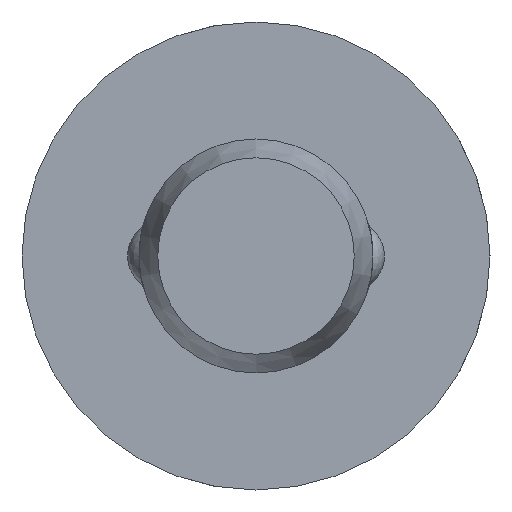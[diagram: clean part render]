
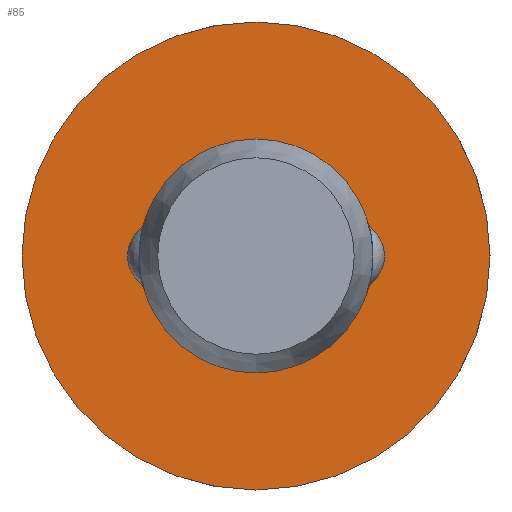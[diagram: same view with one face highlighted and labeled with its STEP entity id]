
A CAD part, left-side view. The second image highlights one B-rep face of the part: STEP entity #85.
In plain terms, the highlighted planar face has unit normal (-1, 0, 0).
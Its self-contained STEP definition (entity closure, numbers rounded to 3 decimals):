
#85 = ADVANCED_FACE( '', ( #131, #132 ), #133, .F. );
#131 = FACE_OUTER_BOUND( '', #204, .T. );
#132 = FACE_BOUND( '', #205, .T. );
#133 = PLANE( '', #206 );
#204 = EDGE_LOOP( '', ( #322 ) );
#205 = EDGE_LOOP( '', ( #323 ) );
#206 = AXIS2_PLACEMENT_3D( '', #324, #325, #326 );
#322 = ORIENTED_EDGE( '', *, *, #470, .F. );
#323 = ORIENTED_EDGE( '', *, *, #467, .T. );
#324 = CARTESIAN_POINT( '', ( 86., 2.5, 0. ) );
#325 = DIRECTION( '', ( 1., 0., 0. ) );
#326 = DIRECTION( '', ( 0., 0., -1. ) );
#467 = EDGE_CURVE( '', #541, #541, #542, .T. );
#470 = EDGE_CURVE( '', #547, #547, #548, .T. );
#541 = VERTEX_POINT( '', #749 );
#542 = CIRCLE( '', #750, 2.5 );
#547 = VERTEX_POINT( '', #801 );
#548 = CIRCLE( '', #802, 5. );
#749 = CARTESIAN_POINT( '', ( 86., 0., -2.5 ) );
#750 = AXIS2_PLACEMENT_3D( '', #881, #882, #883 );
#801 = CARTESIAN_POINT( '', ( 86., 0., -5. ) );
#802 = AXIS2_PLACEMENT_3D( '', #884, #885, #886 );
#881 = CARTESIAN_POINT( '', ( 86., 0., 0. ) );
#882 = DIRECTION( '', ( 1., 0., 0. ) );
#883 = DIRECTION( '', ( 0., 0., -1. ) );
#884 = CARTESIAN_POINT( '', ( 86., 0., 0. ) );
#885 = DIRECTION( '', ( 1., 0., 0. ) );
#886 = DIRECTION( '', ( 0., 0., -1. ) );
